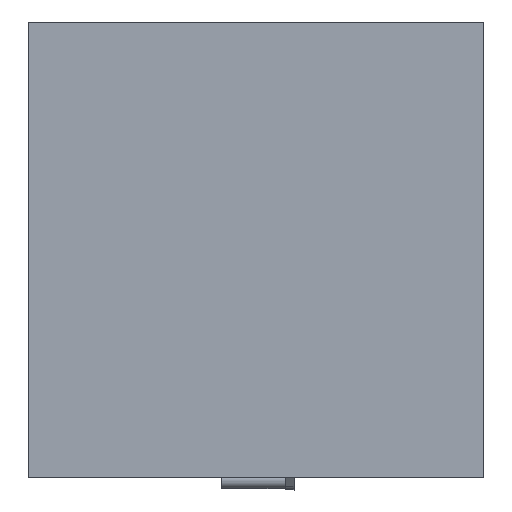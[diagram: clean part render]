
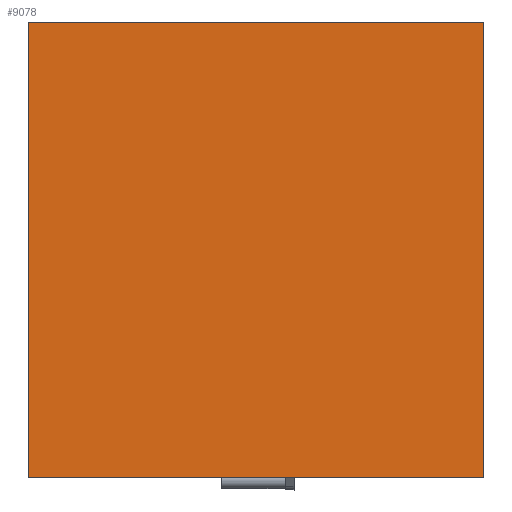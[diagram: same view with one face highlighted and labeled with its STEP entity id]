
A CAD part, front view. The second image highlights one B-rep face of the part: STEP entity #9078.
In plain terms, the highlighted planar face has unit normal (0, -1, 0).
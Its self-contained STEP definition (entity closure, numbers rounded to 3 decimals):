
#1266=PLANE('',#10541);
#1785=FACE_OUTER_BOUND('',#2396,.T.);
#2396=EDGE_LOOP('',(#8325,#8326,#8327,#8328));
#3086=LINE('',#16739,#3802);
#3089=LINE('',#16745,#3805);
#3092=LINE('',#16751,#3808);
#3095=LINE('',#16755,#3811);
#3802=VECTOR('',#13385,10.);
#3805=VECTOR('',#13390,10.);
#3808=VECTOR('',#13395,10.);
#3811=VECTOR('',#13400,10.);
#4979=VERTEX_POINT('',#16736);
#4980=VERTEX_POINT('',#16738);
#4982=VERTEX_POINT('',#16744);
#4984=VERTEX_POINT('',#16750);
#6100=EDGE_CURVE('',#4980,#4979,#3086,.T.);
#6103=EDGE_CURVE('',#4982,#4980,#3089,.T.);
#6106=EDGE_CURVE('',#4984,#4982,#3092,.T.);
#6109=EDGE_CURVE('',#4979,#4984,#3095,.T.);
#8325=ORIENTED_EDGE('',*,*,#6109,.T.);
#8326=ORIENTED_EDGE('',*,*,#6106,.T.);
#8327=ORIENTED_EDGE('',*,*,#6103,.T.);
#8328=ORIENTED_EDGE('',*,*,#6100,.T.);
#9078=ADVANCED_FACE('',(#1785),#1266,.T.);
#10541=AXIS2_PLACEMENT_3D('',#16756,#13401,#13402);
#13385=DIRECTION('',(1.,0.,0.));
#13390=DIRECTION('',(0.,0.,-1.));
#13395=DIRECTION('',(-1.,0.,0.));
#13400=DIRECTION('',(0.,0.,1.));
#13401=DIRECTION('center_axis',(0.,-1.,0.));
#13402=DIRECTION('ref_axis',(0.,0.,-1.));
#16736=CARTESIAN_POINT('',(40.,-651.5,-454.5));
#16738=CARTESIAN_POINT('',(-570.,-651.5,-454.5));
#16739=CARTESIAN_POINT('',(40.,-651.5,-454.5));
#16744=CARTESIAN_POINT('',(-570.,-651.5,155.5));
#16745=CARTESIAN_POINT('',(-570.,-651.5,-454.5));
#16750=CARTESIAN_POINT('',(40.,-651.5,155.5));
#16751=CARTESIAN_POINT('',(-570.,-651.5,155.5));
#16755=CARTESIAN_POINT('',(40.,-651.5,155.5));
#16756=CARTESIAN_POINT('Origin',(-265.,-651.5,-149.5));
